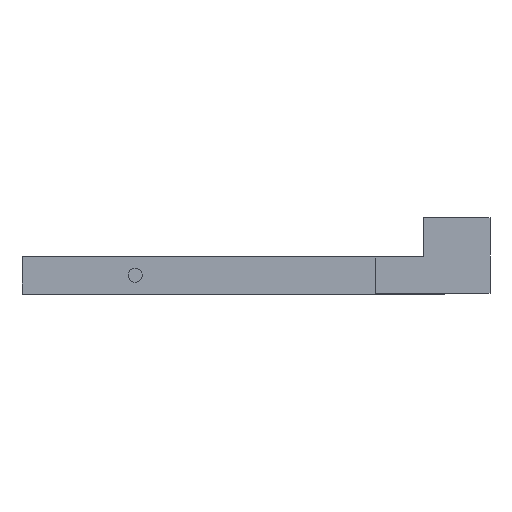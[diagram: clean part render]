
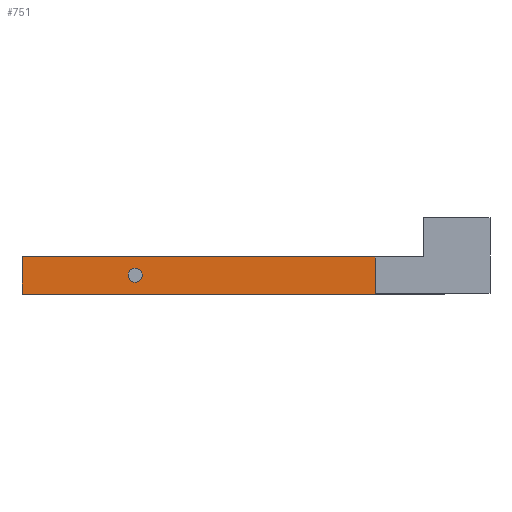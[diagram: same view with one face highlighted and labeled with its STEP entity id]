
A CAD part, left-side view. The second image highlights one B-rep face of the part: STEP entity #751.
In plain terms, the highlighted planar face has unit normal (-1, 0, 0).
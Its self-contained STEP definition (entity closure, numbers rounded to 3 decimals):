
#129=DIRECTION('',(0.,-1.,0.));
#130=VECTOR('',#129,103.);
#131=CARTESIAN_POINT('',(-175.,86.,0.));
#132=LINE('',#131,#130);
#153=DIRECTION('',(0.,0.,-1.));
#154=VECTOR('',#153,54.5);
#155=CARTESIAN_POINT('',(-175.,86.,54.5));
#156=LINE('',#155,#154);
#161=DIRECTION('',(0.,1.,0.));
#162=VECTOR('',#161,603.);
#163=CARTESIAN_POINT('',(-175.,14.,55.5));
#164=LINE('',#163,#162);
#165=CARTESIAN_POINT('',(-175.,447.,27.));
#166=DIRECTION('',(-1.,0.,0.));
#167=DIRECTION('',(0.,0.,1.));
#168=AXIS2_PLACEMENT_3D('',#165,#166,#167);
#170=CARTESIAN_POINT('',(-175.,447.,27.));
#171=DIRECTION('',(-1.,0.,0.));
#172=DIRECTION('',(0.,0.,-1.));
#173=AXIS2_PLACEMENT_3D('',#170,#171,#172);
#175=DIRECTION('',(0.,0.,1.));
#176=VECTOR('',#175,1.5);
#177=CARTESIAN_POINT('',(-175.,-17.,-1.5));
#178=LINE('',#177,#176);
#239=DIRECTION('',(0.,-1.,0.));
#240=VECTOR('',#239,72.);
#241=CARTESIAN_POINT('',(-175.,86.,54.5));
#242=LINE('',#241,#240);
#255=DIRECTION('',(0.,0.,1.));
#256=VECTOR('',#255,1.);
#257=CARTESIAN_POINT('',(-175.,14.,54.5));
#258=LINE('',#257,#256);
#405=DIRECTION('',(0.,0.,1.));
#406=VECTOR('',#405,57.);
#407=CARTESIAN_POINT('',(-175.,617.,-1.5));
#408=LINE('',#407,#406);
#425=DIRECTION('',(0.,-1.,0.));
#426=VECTOR('',#425,634.);
#427=CARTESIAN_POINT('',(-175.,617.,-1.5));
#428=LINE('',#427,#426);
#538=CARTESIAN_POINT('',(-175.,-17.,-1.5));
#540=VERTEX_POINT('',#538);
#550=CARTESIAN_POINT('',(-175.,617.,-1.5));
#552=VERTEX_POINT('',#550);
#555=CARTESIAN_POINT('',(-175.,617.,55.5));
#556=VERTEX_POINT('',#555);
#609=CARTESIAN_POINT('',(-175.,-17.,0.));
#610=VERTEX_POINT('',#609);
#613=CARTESIAN_POINT('',(-175.,86.,0.));
#614=VERTEX_POINT('',#613);
#627=CARTESIAN_POINT('',(-175.,86.,54.5));
#628=VERTEX_POINT('',#627);
#633=CARTESIAN_POINT('',(-175.,14.,54.5));
#634=VERTEX_POINT('',#633);
#637=CARTESIAN_POINT('',(-175.,14.,55.5));
#638=VERTEX_POINT('',#637);
#645=CARTESIAN_POINT('',(-175.,447.,37.65));
#646=CARTESIAN_POINT('',(-175.,447.,16.35));
#647=VERTEX_POINT('',#645);
#648=VERTEX_POINT('',#646);
#724=CARTESIAN_POINT('',(-175.,-17.,55.5));
#725=DIRECTION('',(-1.,0.,0.));
#726=DIRECTION('',(0.,0.,-1.));
#727=AXIS2_PLACEMENT_3D('',#724,#725,#726);
#728=PLANE('',#727);
#730=ORIENTED_EDGE('',*,*,#729,.F.);
#732=ORIENTED_EDGE('',*,*,#731,.F.);
#734=ORIENTED_EDGE('',*,*,#733,.T.);
#736=ORIENTED_EDGE('',*,*,#735,.F.);
#738=ORIENTED_EDGE('',*,*,#737,.F.);
#740=ORIENTED_EDGE('',*,*,#739,.F.);
#741=ORIENTED_EDGE('',*,*,#715,.T.);
#742=ORIENTED_EDGE('',*,*,#686,.T.);
#743=EDGE_LOOP('',(#730,#732,#734,#736,#738,#740,#741,#742));
#744=FACE_OUTER_BOUND('',#743,.F.);
#746=ORIENTED_EDGE('',*,*,#745,.T.);
#748=ORIENTED_EDGE('',*,*,#747,.T.);
#749=EDGE_LOOP('',(#746,#748));
#750=FACE_BOUND('',#749,.F.);
#169=CIRCLE('',#168,10.65);
#174=CIRCLE('',#173,10.65);
#686=EDGE_CURVE('',#614,#610,#132,.T.);
#715=EDGE_CURVE('',#628,#614,#156,.T.);
#729=EDGE_CURVE('',#540,#610,#178,.T.);
#731=EDGE_CURVE('',#552,#540,#428,.T.);
#733=EDGE_CURVE('',#552,#556,#408,.T.);
#735=EDGE_CURVE('',#638,#556,#164,.T.);
#737=EDGE_CURVE('',#634,#638,#258,.T.);
#739=EDGE_CURVE('',#628,#634,#242,.T.);
#745=EDGE_CURVE('',#647,#648,#169,.T.);
#747=EDGE_CURVE('',#648,#647,#174,.T.);
#751=ADVANCED_FACE('',(#744,#750),#728,.T.);
